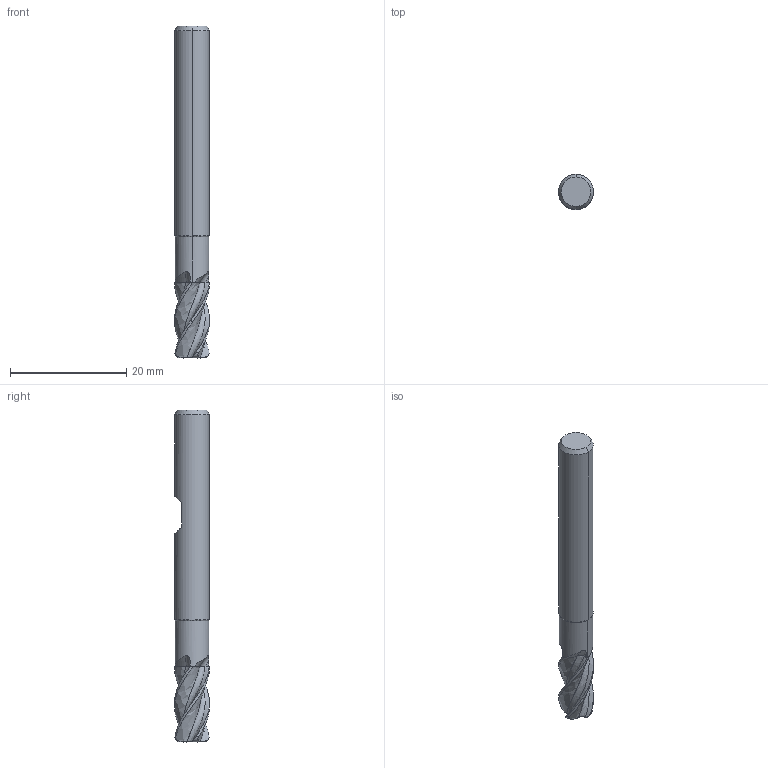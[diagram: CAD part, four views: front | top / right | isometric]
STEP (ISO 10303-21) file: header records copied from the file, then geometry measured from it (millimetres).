
FILE_DESCRIPTION(('no description'),'unknown implementation level');
FILE_NAME('solid2QrtXwgs3NLYXhjPxMUqAgYI2zk_1.STP',' ',('CIMSOURCE GmbH'),('CADClick - KiM GmbH - www.kimweb.de'),'unknown preprocess','ACIS','unknown authorization');
FILE_SCHEMA(('automotive_design'));
Length unit declared in the file: millimetre
Products named in the file (2): NOCUT; CUT
Bounding box: 6 x 6 x 57 mm (x, y, z)
Volume: 1394.3 mm3; surface area: 1386.8 mm2
Topology: 2 solids, 2 shells, 121 faces, 344 edges, 226 vertices
Faces by surface type: bspline 44, plane 23, cone 20, cylinder 16, revolution 12, torus 6
Entity records: 18584 total; most frequent: CARTESIAN_POINT 12003, STYLED_ITEM 693, PRESENTATION_STYLE_ASSIGNMENT 693, COLOUR_RGB 693, ORIENTED_EDGE 688, DIRECTION 390, EDGE_CURVE 344, CURVE_STYLE 344
